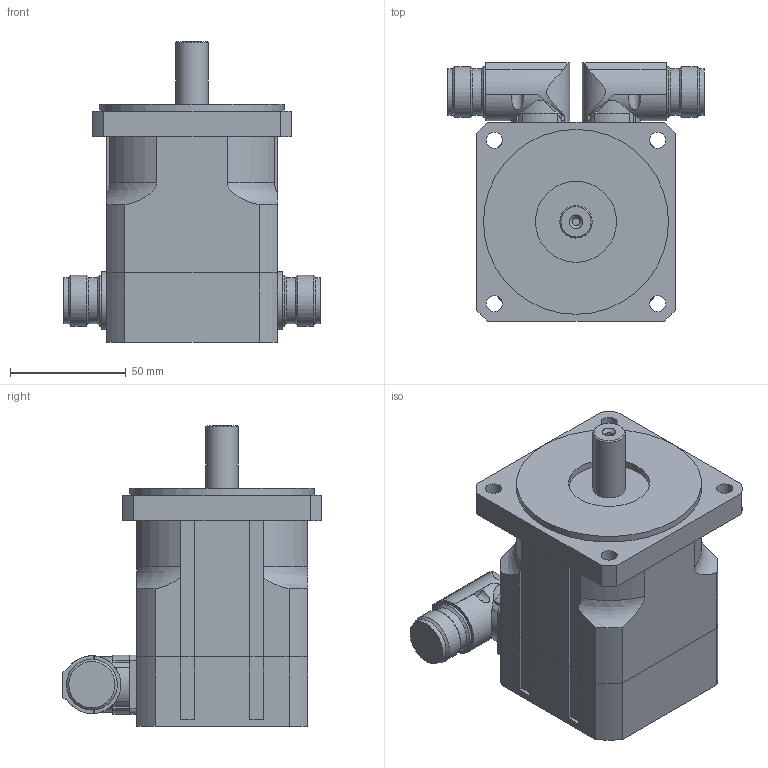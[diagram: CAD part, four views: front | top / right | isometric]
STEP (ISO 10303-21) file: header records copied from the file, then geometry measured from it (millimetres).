
FILE_DESCRIPTION(/* description */ ('Alibre Inc.'),/* implementation_level */ '2;1');
FILE_NAME(/* name */ 'export0',/* time_stamp */ '2011-08-10T12:26:11+02:00',/* author */ (''),/* organization */ (''),/* preprocessor_version */ 'ST-DEVELOPER v12',/* originating_system */ 'Alibre',/* authorisation */ '');
FILE_SCHEMA (('AUTOMOTIVE_DESIGN'));
Length unit declared in the file: millimetre
Products named in the file (4): ID_1
Bounding box: 111 x 112 x 130 mm (x, y, z)
Volume: 601483.1 mm3; surface area: 75533.8 mm2
Topology: 4 solids, 4 shells, 223 faces, 607 edges, 403 vertices
Faces by surface type: cylinder 105, plane 80, bspline 27, cone 7, torus 4
Full cylindrical faces by diameter (mm): 2.7 x8, 14 x1, 20 x6, 22 x4, 35 x1, 80 x1
Entity records: 5616 total; most frequent: CARTESIAN_POINT 1787, ORIENTED_EDGE 780, DIRECTION 708, EDGE_CURVE 390, AXIS2_PLACEMENT_3D 280, VERTEX_POINT 274, VECTOR 207, LINE 207
